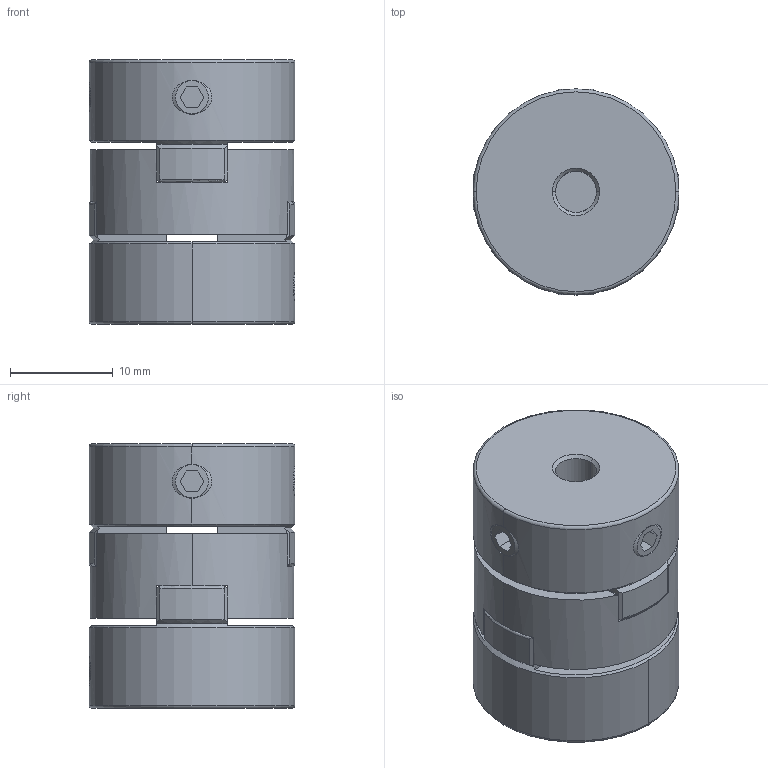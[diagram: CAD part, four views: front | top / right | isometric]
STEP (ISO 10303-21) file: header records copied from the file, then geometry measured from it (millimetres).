
FILE_DESCRIPTION (( 'STEP AP203' ), '1' );
FILE_NAME ('SOH-20SS-4X8_203.STEP', '2013-01-20T06:56:32', ( '' ), ( '' ), 'SwSTEP 2.0', 'SolidWorks 2012', '' );
FILE_SCHEMA (( 'CONFIG_CONTROL_DESIGN' ));
Length unit declared in the file: millimetre
Products named in the file (1): SOH-20SS-4X8_203
Bounding box: 20 x 20 x 25.7 mm (x, y, z)
Volume: 6528 mm3; surface area: 3876.9 mm2
Topology: 1 solids, 1 shells, 169 faces, 487 edges, 311 vertices
Faces by surface type: plane 78, cylinder 51, cone 20, torus 12, sphere 8
Entity records: 6149 total; most frequent: CARTESIAN_POINT 1677, ORIENTED_EDGE 974, DIRECTION 869, EDGE_CURVE 487, VERTEX_POINT 311, AXIS2_PLACEMENT_3D 311, LINE 247, VECTOR 247
